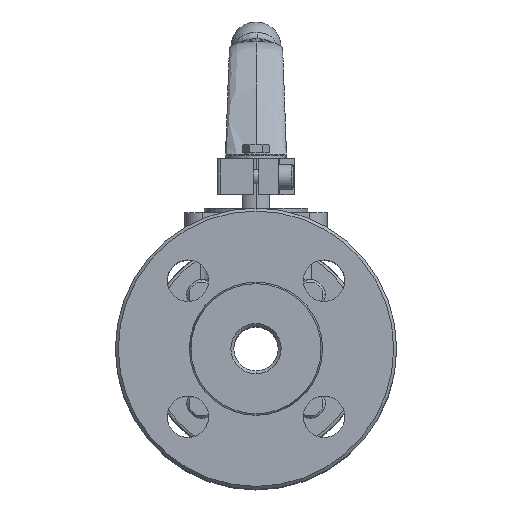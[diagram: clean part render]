
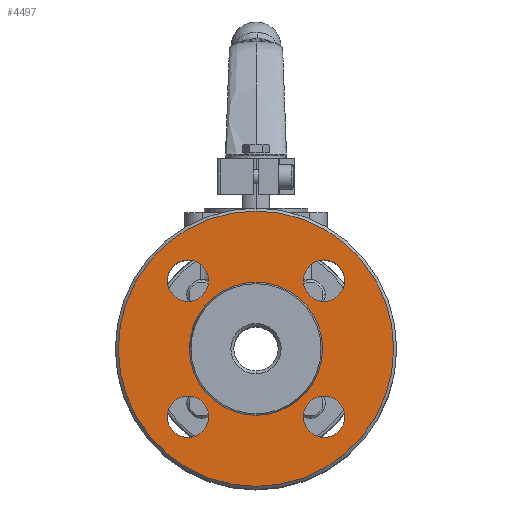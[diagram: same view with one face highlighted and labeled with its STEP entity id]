
A CAD part, top view. The second image highlights one B-rep face of the part: STEP entity #4497.
In plain terms, the highlighted planar face has unit normal (0, 0, 1) as drawn and (0, -1, 0) by its records, which use the part's own axes.
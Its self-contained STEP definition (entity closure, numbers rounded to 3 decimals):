
#258 = FACE_BOUND ( 'NONE', #5626, .T. ) ;
#445 = AXIS2_PLACEMENT_3D ( 'NONE', #15449, #6749, #16914 ) ;
#727 = CARTESIAN_POINT ( 'NONE',  ( 0., -36.5, 46.5 ) ) ;
#761 = CARTESIAN_POINT ( 'NONE',  ( 22.981, -36.5, -22.981 ) ) ;
#905 = CARTESIAN_POINT ( 'NONE',  ( 22.981, -36.5, -29.981 ) ) ;
#1030 = CARTESIAN_POINT ( 'NONE',  ( -22.981, -36.5, 22.981 ) ) ;
#1167 = DIRECTION ( 'NONE',  ( 0., 0., 1. ) ) ;
#1224 = CIRCLE ( 'NONE', #445, 22.5 ) ;
#1613 = EDGE_LOOP ( 'NONE', ( #16312, #2117 ) ) ;
#1787 = CARTESIAN_POINT ( 'NONE',  ( 0., -36.5, 0. ) ) ;
#2117 = ORIENTED_EDGE ( 'NONE', *, *, #2352, .T. ) ;
#2140 = CARTESIAN_POINT ( 'NONE',  ( 22.5, -36.5, 0. ) ) ;
#2255 = DIRECTION ( 'NONE',  ( 0., 1., 0. ) ) ;
#2273 = DIRECTION ( 'NONE',  ( 0., 0., 1. ) ) ;
#2352 = EDGE_CURVE ( 'NONE', #17453, #10767, #11923, .T. ) ;
#2381 = EDGE_CURVE ( 'NONE', #14281, #18419, #15432, .T. ) ;
#2543 = DIRECTION ( 'NONE',  ( 0., 0., 1. ) ) ;
#2555 = CARTESIAN_POINT ( 'NONE',  ( -22.981, -36.5, -15.981 ) ) ;
#2594 = VERTEX_POINT ( 'NONE', #727 ) ;
#2955 = AXIS2_PLACEMENT_3D ( 'NONE', #16456, #7723, #17947 ) ;
#3281 = DIRECTION ( 'NONE',  ( -1., 0., 0. ) ) ;
#3301 = CIRCLE ( 'NONE', #8402, 7. ) ;
#3310 = FACE_BOUND ( 'NONE', #12337, .T. ) ;
#3333 = ORIENTED_EDGE ( 'NONE', *, *, #2381, .T. ) ;
#3856 = EDGE_CURVE ( 'NONE', #10767, #17453, #1224, .T. ) ;
#4049 = AXIS2_PLACEMENT_3D ( 'NONE', #761, #10917, #2273 ) ;
#4261 = CARTESIAN_POINT ( 'NONE',  ( -22.5, -36.5, 0. ) ) ;
#4497 = ADVANCED_FACE ( 'NONE', ( #10956, #258, #3310, #18369, #14434, #10498 ), #9477, .T. ) ;
#4638 = EDGE_CURVE ( 'NONE', #18419, #14281, #13505, .T. ) ;
#4718 = VERTEX_POINT ( 'NONE', #15861 ) ;
#4822 = ORIENTED_EDGE ( 'NONE', *, *, #9500, .T. ) ;
#5549 = CARTESIAN_POINT ( 'NONE',  ( -22.981, -36.5, 15.981 ) ) ;
#5590 = DIRECTION ( 'NONE',  ( 0., 1., 0. ) ) ;
#5592 = DIRECTION ( 'NONE',  ( 0., 1., 0. ) ) ;
#5626 = EDGE_LOOP ( 'NONE', ( #4822, #8049 ) ) ;
#5698 = AXIS2_PLACEMENT_3D ( 'NONE', #13975, #16952, #8184 ) ;
#5930 = ORIENTED_EDGE ( 'NONE', *, *, #9522, .T. ) ;
#6405 = CARTESIAN_POINT ( 'NONE',  ( -22.981, -36.5, -29.981 ) ) ;
#6749 = DIRECTION ( 'NONE',  ( 0., 1., 0. ) ) ;
#6881 = CARTESIAN_POINT ( 'NONE',  ( 22.981, -36.5, -15.981 ) ) ;
#6914 = ORIENTED_EDGE ( 'NONE', *, *, #4638, .T. ) ;
#7104 = DIRECTION ( 'NONE',  ( 0., 1., 0. ) ) ;
#7173 = VERTEX_POINT ( 'NONE', #7462 ) ;
#7462 = CARTESIAN_POINT ( 'NONE',  ( 22.981, -36.5, 15.981 ) ) ;
#7556 = CIRCLE ( 'NONE', #17912, 46.5 ) ;
#7624 = EDGE_LOOP ( 'NONE', ( #8106, #5930 ) ) ;
#7723 = DIRECTION ( 'NONE',  ( 0., 1., 0. ) ) ;
#7950 = VERTEX_POINT ( 'NONE', #15640 ) ;
#8049 = ORIENTED_EDGE ( 'NONE', *, *, #17536, .T. ) ;
#8106 = ORIENTED_EDGE ( 'NONE', *, *, #10500, .T. ) ;
#8184 = DIRECTION ( 'NONE',  ( 0., 0., -1. ) ) ;
#8402 = AXIS2_PLACEMENT_3D ( 'NONE', #10897, #2255, #12368 ) ;
#8409 = CARTESIAN_POINT ( 'NONE',  ( 0., -36.5, 0. ) ) ;
#8422 = EDGE_CURVE ( 'NONE', #2594, #4718, #7556, .T. ) ;
#8503 = ORIENTED_EDGE ( 'NONE', *, *, #15583, .T. ) ;
#8584 = DIRECTION ( 'NONE',  ( 0., 1., 0. ) ) ;
#8821 = CIRCLE ( 'NONE', #15852, 46.5 ) ;
#8940 = ORIENTED_EDGE ( 'NONE', *, *, #16387, .T. ) ;
#9276 = CIRCLE ( 'NONE', #18720, 7. ) ;
#9477 = PLANE ( 'NONE',  #5698 ) ;
#9500 = EDGE_CURVE ( 'NONE', #14524, #13023, #17583, .T. ) ;
#9522 = EDGE_CURVE ( 'NONE', #7173, #12389, #9276, .T. ) ;
#9649 = AXIS2_PLACEMENT_3D ( 'NONE', #1030, #11171, #2543 ) ;
#9717 = CARTESIAN_POINT ( 'NONE',  ( 22.981, -36.5, 29.981 ) ) ;
#9757 = AXIS2_PLACEMENT_3D ( 'NONE', #17371, #8584, #18851 ) ;
#9819 = DIRECTION ( 'NONE',  ( 0., 0., 1. ) ) ;
#9833 = DIRECTION ( 'NONE',  ( 0., -1., 0. ) ) ;
#10498 = FACE_BOUND ( 'NONE', #1613, .T. ) ;
#10500 = EDGE_CURVE ( 'NONE', #12389, #7173, #3301, .T. ) ;
#10767 = VERTEX_POINT ( 'NONE', #4261 ) ;
#10897 = CARTESIAN_POINT ( 'NONE',  ( 22.981, -36.5, 22.981 ) ) ;
#10917 = DIRECTION ( 'NONE',  ( 0., 1., 0. ) ) ;
#10956 = FACE_OUTER_BOUND ( 'NONE', #17144, .T. ) ;
#11171 = DIRECTION ( 'NONE',  ( 0., 1., 0. ) ) ;
#11406 = AXIS2_PLACEMENT_3D ( 'NONE', #14225, #5590, #15737 ) ;
#11905 = DIRECTION ( 'NONE',  ( 0., 1., 0. ) ) ;
#11923 = CIRCLE ( 'NONE', #17977, 22.5 ) ;
#12337 = EDGE_LOOP ( 'NONE', ( #6914, #3333 ) ) ;
#12368 = DIRECTION ( 'NONE',  ( 0., 0., 1. ) ) ;
#12389 = VERTEX_POINT ( 'NONE', #9717 ) ;
#12492 = CIRCLE ( 'NONE', #9757, 7. ) ;
#13023 = VERTEX_POINT ( 'NONE', #905 ) ;
#13505 = CIRCLE ( 'NONE', #11406, 7. ) ;
#13975 = CARTESIAN_POINT ( 'NONE',  ( 0., -36.5, -35. ) ) ;
#14225 = CARTESIAN_POINT ( 'NONE',  ( -22.981, -36.5, -22.981 ) ) ;
#14229 = CARTESIAN_POINT ( 'NONE',  ( 22.981, -36.5, -22.981 ) ) ;
#14281 = VERTEX_POINT ( 'NONE', #6405 ) ;
#14434 = FACE_BOUND ( 'NONE', #7624, .T. ) ;
#14437 = EDGE_LOOP ( 'NONE', ( #8503, #15871 ) ) ;
#14524 = VERTEX_POINT ( 'NONE', #6881 ) ;
#14588 = EDGE_CURVE ( 'NONE', #17924, #7950, #12492, .T. ) ;
#15432 = CIRCLE ( 'NONE', #2955, 7. ) ;
#15449 = CARTESIAN_POINT ( 'NONE',  ( 0., -36.5, 0. ) ) ;
#15583 = EDGE_CURVE ( 'NONE', #7950, #17924, #18045, .T. ) ;
#15640 = CARTESIAN_POINT ( 'NONE',  ( -22.981, -36.5, 29.981 ) ) ;
#15737 = DIRECTION ( 'NONE',  ( 0., 0., 1. ) ) ;
#15739 = DIRECTION ( 'NONE',  ( 0., 0., 1. ) ) ;
#15763 = AXIS2_PLACEMENT_3D ( 'NONE', #14229, #5592, #15739 ) ;
#15799 = CARTESIAN_POINT ( 'NONE',  ( 22.981, -36.5, 22.981 ) ) ;
#15852 = AXIS2_PLACEMENT_3D ( 'NONE', #18693, #9833, #1167 ) ;
#15861 = CARTESIAN_POINT ( 'NONE',  ( 0., -36.5, -46.5 ) ) ;
#15871 = ORIENTED_EDGE ( 'NONE', *, *, #14588, .T. ) ;
#16312 = ORIENTED_EDGE ( 'NONE', *, *, #3856, .T. ) ;
#16387 = EDGE_CURVE ( 'NONE', #4718, #2594, #8821, .T. ) ;
#16456 = CARTESIAN_POINT ( 'NONE',  ( -22.981, -36.5, -22.981 ) ) ;
#16827 = CIRCLE ( 'NONE', #4049, 7. ) ;
#16914 = DIRECTION ( 'NONE',  ( -1., 0., 0. ) ) ;
#16952 = DIRECTION ( 'NONE',  ( 0., -1., 0. ) ) ;
#17144 = EDGE_LOOP ( 'NONE', ( #17530, #8940 ) ) ;
#17278 = DIRECTION ( 'NONE',  ( 0., 0., 1. ) ) ;
#17371 = CARTESIAN_POINT ( 'NONE',  ( -22.981, -36.5, 22.981 ) ) ;
#17453 = VERTEX_POINT ( 'NONE', #2140 ) ;
#17530 = ORIENTED_EDGE ( 'NONE', *, *, #8422, .T. ) ;
#17536 = EDGE_CURVE ( 'NONE', #13023, #14524, #16827, .T. ) ;
#17583 = CIRCLE ( 'NONE', #15763, 7. ) ;
#17912 = AXIS2_PLACEMENT_3D ( 'NONE', #8409, #18679, #9819 ) ;
#17924 = VERTEX_POINT ( 'NONE', #5549 ) ;
#17947 = DIRECTION ( 'NONE',  ( 0., 0., 1. ) ) ;
#17977 = AXIS2_PLACEMENT_3D ( 'NONE', #1787, #11905, #3281 ) ;
#18045 = CIRCLE ( 'NONE', #9649, 7. ) ;
#18369 = FACE_BOUND ( 'NONE', #14437, .T. ) ;
#18419 = VERTEX_POINT ( 'NONE', #2555 ) ;
#18679 = DIRECTION ( 'NONE',  ( 0., -1., 0. ) ) ;
#18693 = CARTESIAN_POINT ( 'NONE',  ( 0., -36.5, 0. ) ) ;
#18720 = AXIS2_PLACEMENT_3D ( 'NONE', #15799, #7104, #17278 ) ;
#18851 = DIRECTION ( 'NONE',  ( 0., 0., 1. ) ) ;
